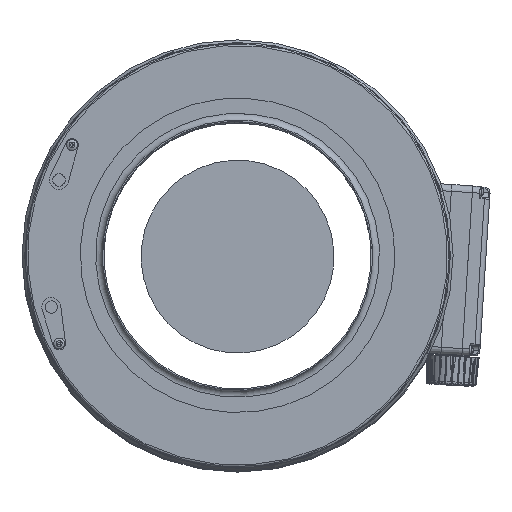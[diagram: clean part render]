
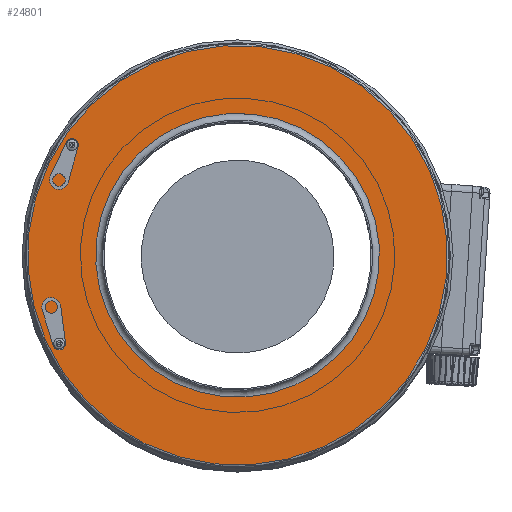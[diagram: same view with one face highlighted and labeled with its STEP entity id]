
A CAD part, top view. The second image highlights one B-rep face of the part: STEP entity #24801.
In plain terms, the highlighted planar face has unit normal (0, 0, 1).
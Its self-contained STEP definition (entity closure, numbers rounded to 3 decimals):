
#681 = CARTESIAN_POINT ( 'NONE',  ( -46.091, -93.786, 548.1 ) ) ;
#824 = ORIENTED_EDGE ( 'NONE', *, *, #20068, .T. ) ;
#931 = FACE_OUTER_BOUND ( 'NONE', #14137, .T. ) ;
#1112 = CIRCLE ( 'NONE', #7063, 154.5 ) ;
#1628 = DIRECTION ( 'NONE',  ( 0., 0., 1. ) ) ;
#3175 = EDGE_LOOP ( 'NONE', ( #13806 ) ) ;
#5331 = CIRCLE ( 'NONE', #20199, 2.1 ) ;
#5750 = CARTESIAN_POINT ( 'NONE',  ( -131.303, -64.975, 548.1 ) ) ;
#6050 = ORIENTED_EDGE ( 'NONE', *, *, #22364, .F. ) ;
#6198 = DIRECTION ( 'NONE',  ( 0.897, -0.441, 0. ) ) ;
#6321 = ORIENTED_EDGE ( 'NONE', *, *, #11907, .F. ) ;
#7059 = FACE_BOUND ( 'NONE', #3175, .T. ) ;
#7063 = AXIS2_PLACEMENT_3D ( 'NONE', #24587, #25116, #10718 ) ;
#7253 = CIRCLE ( 'NONE', #20001, 104.5 ) ;
#7465 = VERTEX_POINT ( 'NONE', #19167 ) ;
#7906 = CARTESIAN_POINT ( 'NONE',  ( -121.921, 81.225, 548.1 ) ) ;
#8594 = DIRECTION ( 'NONE',  ( 0., 0., -1. ) ) ;
#10460 = AXIS2_PLACEMENT_3D ( 'NONE', #7906, #21605, #18008 ) ;
#10718 = DIRECTION ( 'NONE',  ( 0.897, -0.441, 0. ) ) ;
#10919 = FACE_BOUND ( 'NONE', #15234, .T. ) ;
#11907 = EDGE_CURVE ( 'NONE', #18141, #18141, #17678, .T. ) ;
#12145 = AXIS2_PLACEMENT_3D ( 'NONE', #681, #15166, #25450 ) ;
#12435 = CARTESIAN_POINT ( 'NONE',  ( 0., 0., 548.1 ) ) ;
#13806 = ORIENTED_EDGE ( 'NONE', *, *, #21576, .F. ) ;
#14137 = EDGE_LOOP ( 'NONE', ( #6050 ) ) ;
#15026 = PLANE ( 'NONE',  #12145 ) ;
#15166 = DIRECTION ( 'NONE',  ( 0., 0., 1. ) ) ;
#15234 = EDGE_LOOP ( 'NONE', ( #6321 ) ) ;
#15300 = VERTEX_POINT ( 'NONE', #23442 ) ;
#16228 = EDGE_LOOP ( 'NONE', ( #824 ) ) ;
#17678 = CIRCLE ( 'NONE', #10460, 2.1 ) ;
#18008 = DIRECTION ( 'NONE',  ( -0.897, 0.441, 0. ) ) ;
#18141 = VERTEX_POINT ( 'NONE', #26290 ) ;
#19167 = CARTESIAN_POINT ( 'NONE',  ( -133.188, -64.049, 548.1 ) ) ;
#20001 = AXIS2_PLACEMENT_3D ( 'NONE', #12435, #8594, #6198 ) ;
#20068 = EDGE_CURVE ( 'NONE', #23175, #23175, #7253, .T. ) ;
#20199 = AXIS2_PLACEMENT_3D ( 'NONE', #5750, #1628, #24388 ) ;
#21417 = FACE_BOUND ( 'NONE', #16228, .T. ) ;
#21576 = EDGE_CURVE ( 'NONE', #7465, #7465, #5331, .T. ) ;
#21605 = DIRECTION ( 'NONE',  ( 0., 0., 1. ) ) ;
#22364 = EDGE_CURVE ( 'NONE', #15300, #15300, #1112, .T. ) ;
#23175 = VERTEX_POINT ( 'NONE', #25320 ) ;
#23442 = CARTESIAN_POINT ( 'NONE',  ( 138.66, -68.144, 548.1 ) ) ;
#24388 = DIRECTION ( 'NONE',  ( -0.897, 0.441, 0. ) ) ;
#24587 = CARTESIAN_POINT ( 'NONE',  ( 0., 0., 548.1 ) ) ;
#24801 = ADVANCED_FACE ( 'NONE', ( #7059, #10919, #21417, #931 ), #15026, .T. ) ;
#25116 = DIRECTION ( 'NONE',  ( 0., 0., -1. ) ) ;
#25320 = CARTESIAN_POINT ( 'NONE',  ( 93.786, -46.091, 548.1 ) ) ;
#25450 = DIRECTION ( 'NONE',  ( -0.897, 0.441, 0. ) ) ;
#26290 = CARTESIAN_POINT ( 'NONE',  ( -123.806, 82.151, 548.1 ) ) ;
